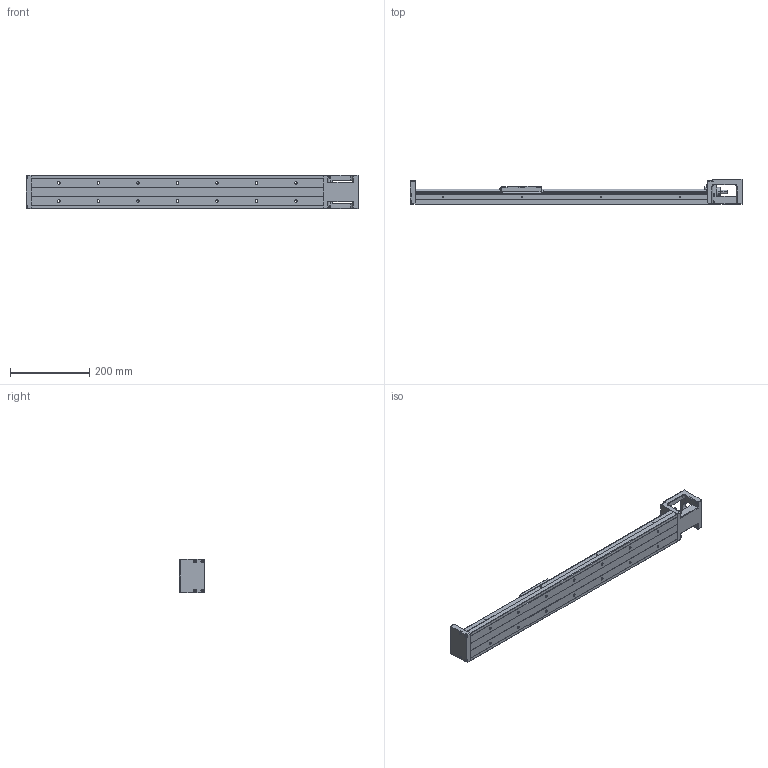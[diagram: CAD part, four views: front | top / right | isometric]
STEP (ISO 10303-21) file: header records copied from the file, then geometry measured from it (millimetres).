
FILE_DESCRIPTION (( 'STEP AP203' ), '1' );
FILE_NAME ('HKK86D20C-940A1-F0.stp', '2021-11-25T03:58:02', ( '' ), ( '' ), 'SwSTEP 2.0', 'SolidWorks 2018', '' );
FILE_SCHEMA (( 'CONFIG_CONTROL_DESIGN' ));
Length unit declared in the file: millimetre
Products named in the file (1): HKK86D20C-940A1-F0
Bounding box: 840 x 64 x 86 mm (x, y, z)
Volume: 1563174 mm3; surface area: 320659.2 mm2
Topology: 2 solids, 2 shells, 631 faces, 1685 edges, 1060 vertices
Faces by surface type: plane 297, cylinder 243, cone 74, sphere 9, torus 8
Entity records: 19841 total; most frequent: CARTESIAN_POINT 4009, DIRECTION 3329, ORIENTED_EDGE 3246, EDGE_CURVE 1623, AXIS2_PLACEMENT_3D 1155, VERTEX_POINT 1056, LINE 1019, VECTOR 1019
